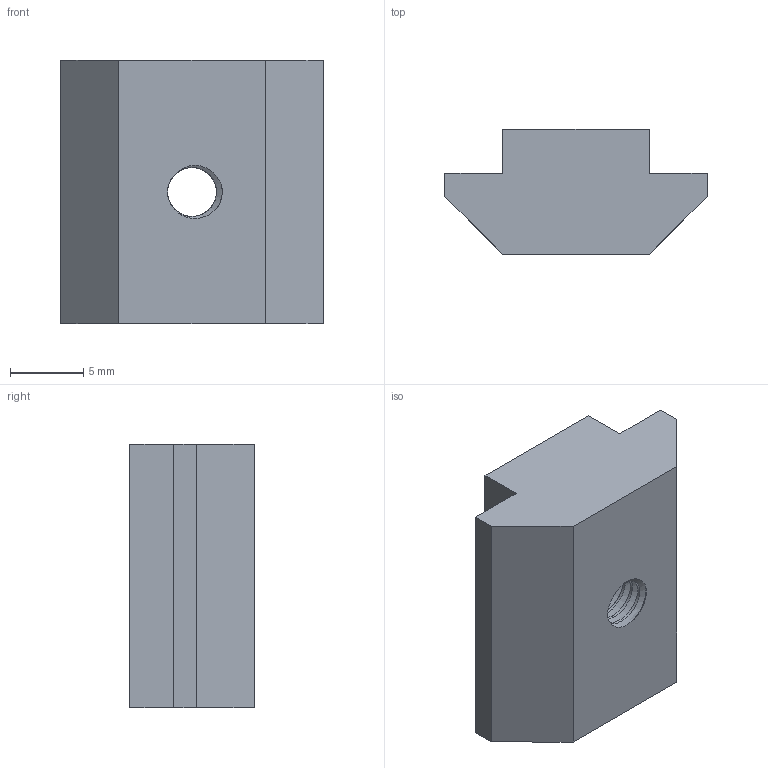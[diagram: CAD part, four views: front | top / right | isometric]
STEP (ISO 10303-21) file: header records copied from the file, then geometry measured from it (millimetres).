
FILE_DESCRIPTION(/* description */ ('STEP AP203'),/* implementation_level */ '2;1');
FILE_NAME(/* name */ 'M4 40 & 45 Series Roll In Nut - T-Slot - Zinc Plated.step',/* time_stamp */ '2024-08-20T23:33:32+03:00',/* author */ (''),/* organization */ (''),/* preprocessor_version */ 'ST-DEVELOPER v20',/* originating_system */ 'Autodesk Translation Framework v13.14.0.145',/* authorisation */ '');
FILE_SCHEMA (('AUTOMOTIVE_DESIGN { 1 0 10303 214 3 1 1 }'));
Length unit declared in the file: millimetre
Products named in the file (1): 2142.010.001
Bounding box: 17.9 x 8.5 x 18 mm (x, y, z)
Volume: 1941.9 mm3; surface area: 1233 mm2
Topology: 1 solids, 1 shells, 40 faces, 114 edges, 76 vertices
Faces by surface type: cylinder 26, plane 12, bspline 2
Full cylindrical faces by diameter (mm): 3.332 x4, 4.109 x3
Entity records: 2958 total; most frequent: CARTESIAN_POINT 1988, ORIENTED_EDGE 228, DIRECTION 140, EDGE_CURVE 114, VERTEX_POINT 76, B_SPLINE_CURVE_WITH_KNOTS 56, LINE 54, VECTOR 54
